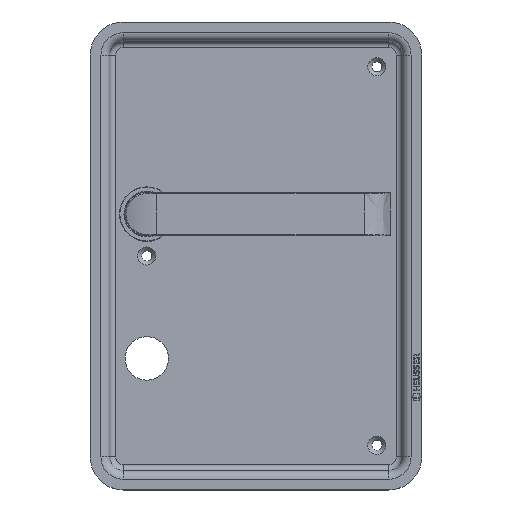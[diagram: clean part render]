
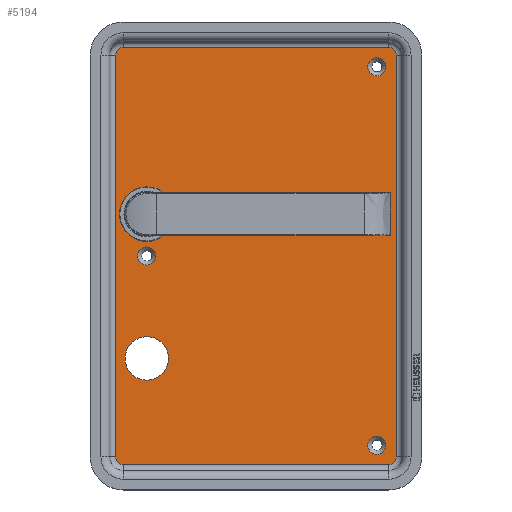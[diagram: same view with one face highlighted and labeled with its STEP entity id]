
A CAD part, top view. The second image highlights one B-rep face of the part: STEP entity #5194.
In plain terms, the highlighted planar face has unit normal (0, 0, 1).
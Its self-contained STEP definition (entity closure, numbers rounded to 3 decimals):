
#287=LINE('',#7309,#679);
#289=LINE('',#7327,#681);
#290=LINE('',#7330,#682);
#292=LINE('',#7347,#684);
#679=VECTOR('',#6038,10.);
#681=VECTOR('',#6060,10.);
#682=VECTOR('',#6063,10.);
#684=VECTOR('',#6085,10.);
#1146=FACE_BOUND('',#1616,.T.);
#1147=FACE_BOUND('',#1617,.T.);
#1148=FACE_BOUND('',#1618,.T.);
#1149=FACE_BOUND('',#1619,.T.);
#1150=FACE_BOUND('',#1620,.T.);
#1285=FACE_OUTER_BOUND('',#1615,.T.);
#1615=EDGE_LOOP('',(#3603,#3604,#3605,#3606,#3607,#3608,#3609,#3610));
#1616=EDGE_LOOP('',(#3611));
#1617=EDGE_LOOP('',(#3612));
#1618=EDGE_LOOP('',(#3613));
#1619=EDGE_LOOP('',(#3614));
#1620=EDGE_LOOP('',(#3615));
#1938=CIRCLE('',#5502,4.);
#1939=CIRCLE('',#5504,4.);
#1946=CIRCLE('',#5514,4.);
#1947=CIRCLE('',#5516,4.);
#1996=CIRCLE('',#5616,4.65);
#1997=CIRCLE('',#5618,4.65);
#1998=CIRCLE('',#5620,14.);
#1999=CIRCLE('',#5621,11.15);
#2000=CIRCLE('',#5622,4.65);
#2117=VERTEX_POINT('',#7303);
#2119=VERTEX_POINT('',#7307);
#2121=VERTEX_POINT('',#7313);
#2122=VERTEX_POINT('',#7317);
#2125=VERTEX_POINT('',#7325);
#2126=VERTEX_POINT('',#7329);
#2129=VERTEX_POINT('',#7337);
#2130=VERTEX_POINT('',#7341);
#2191=VERTEX_POINT('',#7559);
#2192=VERTEX_POINT('',#7562);
#2193=VERTEX_POINT('',#7565);
#2194=VERTEX_POINT('',#7567);
#2195=VERTEX_POINT('',#7569);
#2613=EDGE_CURVE('',#2119,#2117,#287,.T.);
#2616=EDGE_CURVE('',#2121,#2119,#1938,.T.);
#2617=EDGE_CURVE('',#2117,#2122,#1939,.T.);
#2622=EDGE_CURVE('',#2125,#2121,#289,.T.);
#2623=EDGE_CURVE('',#2122,#2126,#290,.T.);
#2628=EDGE_CURVE('',#2129,#2125,#1946,.T.);
#2629=EDGE_CURVE('',#2126,#2130,#1947,.T.);
#2632=EDGE_CURVE('',#2130,#2129,#292,.T.);
#2733=EDGE_CURVE('',#2191,#2191,#1996,.T.);
#2734=EDGE_CURVE('',#2192,#2192,#1997,.T.);
#2735=EDGE_CURVE('',#2193,#2193,#1998,.T.);
#2736=EDGE_CURVE('',#2194,#2194,#1999,.T.);
#2737=EDGE_CURVE('',#2195,#2195,#2000,.T.);
#3603=ORIENTED_EDGE('',*,*,#2632,.F.);
#3604=ORIENTED_EDGE('',*,*,#2629,.F.);
#3605=ORIENTED_EDGE('',*,*,#2623,.F.);
#3606=ORIENTED_EDGE('',*,*,#2617,.F.);
#3607=ORIENTED_EDGE('',*,*,#2613,.F.);
#3608=ORIENTED_EDGE('',*,*,#2616,.F.);
#3609=ORIENTED_EDGE('',*,*,#2622,.F.);
#3610=ORIENTED_EDGE('',*,*,#2628,.F.);
#3611=ORIENTED_EDGE('',*,*,#2735,.T.);
#3612=ORIENTED_EDGE('',*,*,#2736,.T.);
#3613=ORIENTED_EDGE('',*,*,#2734,.F.);
#3614=ORIENTED_EDGE('',*,*,#2733,.F.);
#3615=ORIENTED_EDGE('',*,*,#2737,.F.);
#4700=PLANE('',#5619);
#5194=ADVANCED_FACE('',(#1285,#1146,#1147,#1148,#1149,#1150),#4700,.T.);
#5502=AXIS2_PLACEMENT_3D('',#7315,#6045,#6046);
#5504=AXIS2_PLACEMENT_3D('',#7318,#6049,#6050);
#5514=AXIS2_PLACEMENT_3D('',#7339,#6073,#6074);
#5516=AXIS2_PLACEMENT_3D('',#7342,#6077,#6078);
#5616=AXIS2_PLACEMENT_3D('',#7560,#6330,#6331);
#5618=AXIS2_PLACEMENT_3D('',#7563,#6334,#6335);
#5619=AXIS2_PLACEMENT_3D('',#7564,#6336,#6337);
#5620=AXIS2_PLACEMENT_3D('',#7566,#6338,#6339);
#5621=AXIS2_PLACEMENT_3D('',#7568,#6340,#6341);
#5622=AXIS2_PLACEMENT_3D('',#7570,#6342,#6343);
#6038=DIRECTION('',(0.,-1.,0.));
#6045=DIRECTION('center_axis',(0.,0.,-1.));
#6046=DIRECTION('ref_axis',(0.707,0.707,0.));
#6049=DIRECTION('center_axis',(0.,0.,-1.));
#6050=DIRECTION('ref_axis',(0.707,-0.707,0.));
#6060=DIRECTION('',(1.,0.,0.));
#6063=DIRECTION('',(-1.,0.,0.));
#6073=DIRECTION('center_axis',(0.,0.,-1.));
#6074=DIRECTION('ref_axis',(-0.707,0.707,0.));
#6077=DIRECTION('center_axis',(0.,0.,-1.));
#6078=DIRECTION('ref_axis',(-0.707,-0.707,0.));
#6085=DIRECTION('',(0.,1.,0.));
#6330=DIRECTION('center_axis',(0.,0.,1.));
#6331=DIRECTION('ref_axis',(-1.,0.,0.));
#6334=DIRECTION('center_axis',(0.,0.,1.));
#6335=DIRECTION('ref_axis',(-1.,0.,0.));
#6336=DIRECTION('center_axis',(0.,0.,1.));
#6337=DIRECTION('ref_axis',(1.,0.,0.));
#6338=DIRECTION('center_axis',(0.,0.,-1.));
#6339=DIRECTION('ref_axis',(1.,0.,0.));
#6340=DIRECTION('center_axis',(0.,0.,-1.));
#6341=DIRECTION('ref_axis',(-1.,0.,0.));
#6342=DIRECTION('center_axis',(0.,0.,1.));
#6343=DIRECTION('ref_axis',(-1.,0.,0.));
#7303=CARTESIAN_POINT('',(70.865,-93.546,-5.5));
#7307=CARTESIAN_POINT('',(70.865,112.454,-5.5));
#7309=CARTESIAN_POINT('',(70.865,60.954,-5.5));
#7313=CARTESIAN_POINT('',(66.865,116.454,-5.5));
#7315=CARTESIAN_POINT('Origin',(66.865,112.454,-5.5));
#7317=CARTESIAN_POINT('',(66.865,-97.546,-5.5));
#7318=CARTESIAN_POINT('Origin',(66.865,-93.546,-5.5));
#7325=CARTESIAN_POINT('',(-69.135,116.454,-5.5));
#7327=CARTESIAN_POINT('',(-35.135,116.454,-5.5));
#7329=CARTESIAN_POINT('',(-69.135,-97.546,-5.5));
#7330=CARTESIAN_POINT('',(32.865,-97.546,-5.5));
#7337=CARTESIAN_POINT('',(-73.135,112.454,-5.5));
#7339=CARTESIAN_POINT('Origin',(-69.135,112.454,-5.5));
#7341=CARTESIAN_POINT('',(-73.135,-93.546,-5.5));
#7342=CARTESIAN_POINT('Origin',(-69.135,-93.546,-5.5));
#7347=CARTESIAN_POINT('',(-73.135,-42.046,-5.5));
#7559=CARTESIAN_POINT('',(65.515,-87.546,-5.5));
#7560=CARTESIAN_POINT('Origin',(60.865,-87.546,-5.5));
#7562=CARTESIAN_POINT('',(65.515,106.454,-5.5));
#7563=CARTESIAN_POINT('Origin',(60.865,106.454,-5.5));
#7564=CARTESIAN_POINT('Origin',(-1.135,9.454,-5.5));
#7565=CARTESIAN_POINT('',(-71.135,30.954,-5.5));
#7566=CARTESIAN_POINT('Origin',(-57.135,30.954,-5.5));
#7567=CARTESIAN_POINT('',(-45.985,-43.046,-5.5));
#7568=CARTESIAN_POINT('Origin',(-57.135,-43.046,-5.5));
#7569=CARTESIAN_POINT('',(-52.485,9.454,-5.5));
#7570=CARTESIAN_POINT('Origin',(-57.135,9.454,-5.5));
